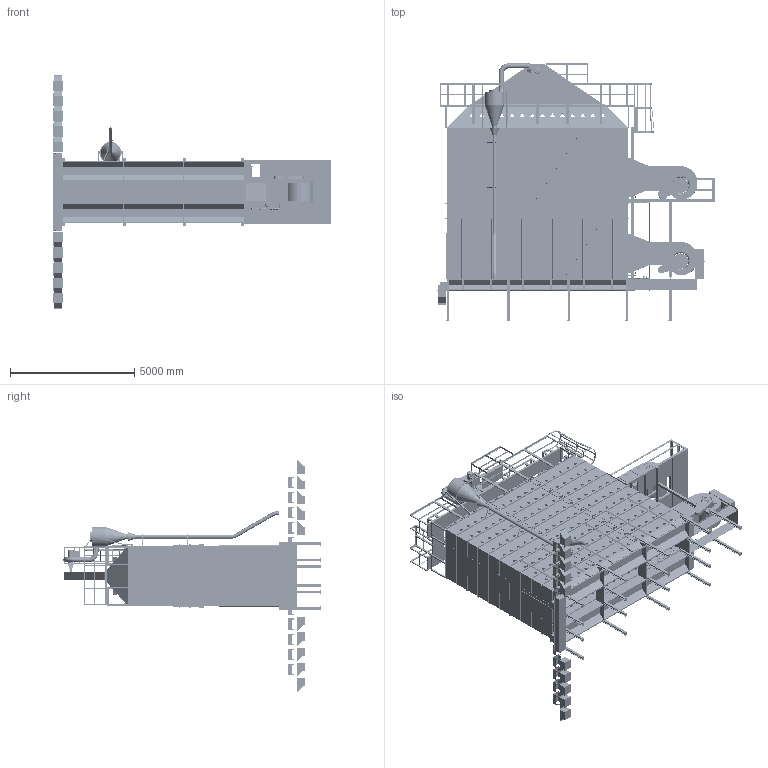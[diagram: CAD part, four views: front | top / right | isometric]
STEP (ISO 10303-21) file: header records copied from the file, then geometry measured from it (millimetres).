
FILE_DESCRIPTION(/* description */ ('PLAN AND ELEVATION VIEW FOR D24180 WITH ROOF & PRE-CLEANER'),/* implementation_level */ '2;1');
FILE_NAME(/* name */ 'C:\Engineering\Designs\Sales\Dryer\Workspaces\D24 All\D24180PC.stp',/* time_stamp */ '2025-01-07T09:36:08-06:00',/* author */ ('max.fleming'),/* organization */ (''),/* preprocessor_version */ 'ST-DEVELOPER v18.1',/* originating_system */ 'Autodesk Inventor 2022',/* authorisation */ '');
FILE_SCHEMA (('AUTOMOTIVE_DESIGN { 1 0 10303 214 3 1 1 }'));
Products named in the file (46): D24180PC; 24FT FRAME; 8FT MID FRAME; 8FT LHRH FRAME; 24FT ROOF GF; 8FTRoof GF MID; 8FTRoof GF LHRH; Tongue; Platform Support 1-T; 24FT BODY TIER; LH Body; MID Body; RH Body; LH Body_MIR2; MID Body_MIR1; RH Body_MIR2; Outside Splice; Trans & Blower; Screen Guard; Belt Shield; LP Fuel; Standard Size End Plenum Panels; Ladder 2' section; Platform; Stiffeners; 1 Tier Vertical Support; LP Inlet; 2401002; Liquid Propane Pipe; 8'' CROSS AUGER; 12'' CROSS DRAG; 24FT PRE CLEANER RH DIS; 24FT Pre Cleaner Grav Assy; Aspirator Blower CCW; Aspirator Blower; NEMA MOTOR 182T; 24FT FULL CATWALK W PRE CLEANER MOUNTS; Pre-Cleaner Cyclone; 24FT Aspirator 8in Pipe; Ladder Cage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
Assembly tree (142 placements, depth 4):
  D24180PC
    24FT FRAME
      8FT LHRH FRAME  x2
      8FT MID FRAME
    24FT ROOF GF
      8FTRoof GF LHRH  x2
      8FTRoof GF MID
    Tongue
    Platform Support 1-T
    24FT BODY TIER  x10
      LH Body
      MID Body
      RH Body
      LH Body_MIR2
      MID Body_MIR1
      RH Body_MIR2
      Outside Splice
    Trans & Blower  x2
    Screen Guard  x4
    Belt Shield  x2
    LP Fuel  x2
    Standard Size End Plenum Panels  x17
    Platform
    Stiffeners  x48
    1 Tier Vertical Support  x8
    LP Inlet
    2401002
    Liquid Propane Pipe  x5
    24FT PRE CLEANER RH DIS
      24FT Pre Cleaner Grav Assy
      Aspirator Blower CCW
        Aspirator Blower
        NEMA MOTOR 182T
      24FT FULL CATWALK W PRE CLEANER MOUNTS
      Pre-Cleaner Cyclone
      24FT Aspirator 8in Pipe
    Ladder Cage
    6IN ELBOW  x2
    6in PIPE 60L  x4
    6IN HANGER  x3
    6in PIPE SLEEVE 11L
    PIPE SUPPORT  x2
  Ladder 2' section
  8'' CROSS AUGER
  12'' CROSS DRAG
  Leg Kit 24 10T 4'
Bounding box: 11201.4 x 10375.2 x 9423.4 mm (x, y, z)
Volume: 82349338215.5 mm3; surface area: 1194525516.9 mm2
Topology: 567 solids, 725 shells, 41351 faces, 107486 edges, 68860 vertices
Faces by surface type: plane 20627, cylinder 11758, bspline 3781, cone 3398, torus 1603, sphere 184
Full cylindrical faces by diameter (mm): 1 x10, 1.651 x6, 1.753 x6, 1.778 x12, 2.019 x4, 2.108 x2, 2.286 x24, 2.489 x2, 2.54 x4, 3.091 x288, 3.175 x5, 3.251 x20, 3.306 x288, 3.522 x2, 3.658 x28, 3.8 x16, 4 x384, 4.039 x20, 4.166 x256, 4.191 x4, 4.229 x2, 4.267 x2, 4.369 x8, 4.445 x8, 4.701 x592, 4.762 x16, 4.851 x8, 4.928 x32, 5.283 x2, 5.527 x20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
Entity records: 812833 total; most frequent: CARTESIAN_POINT 349196, ORIENTED_EDGE 96872, DIRECTION 86801, EDGE_CURVE 48576, VERTEX_POINT 31099, AXIS2_PLACEMENT_3D 29190, LINE 28421, VECTOR 28421
